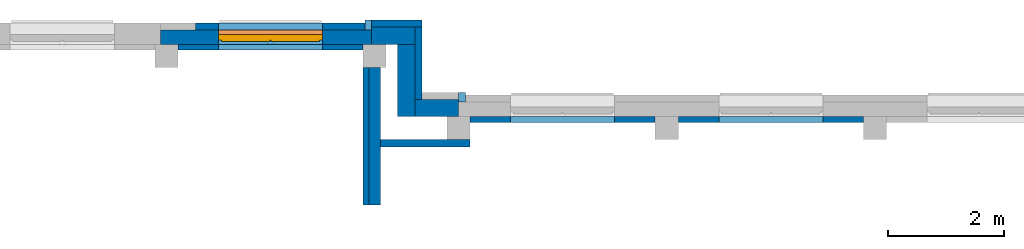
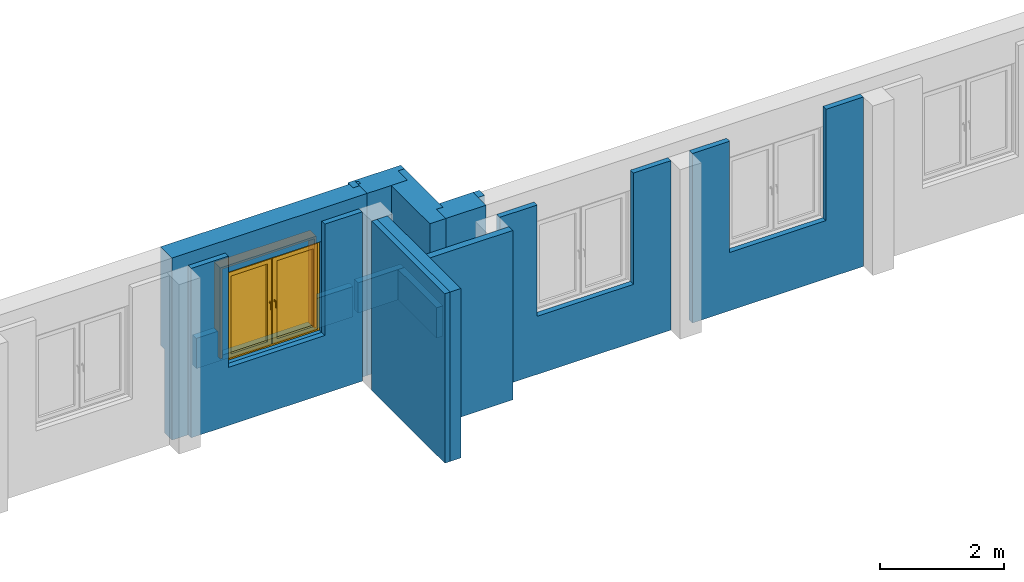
# One storey, part 2 of 7: 15 walls, 1 proxy, 1 window, 5 openings.
"""IFC4 building model written with IfcOpenShell, lengths in metres."""

from ifc_helpers import new_model, entity, si_unit, converted_unit, derived_unit, frame, frame_2d, origin, origin_with_axes, place, context, subcontext, project, spatial, polyline, rectangle, outline, extrude, clip, bounded_halfspace, closed_shell, open_shell, faceted_brep, surface_model, source, transform, mapped, material, layer, layer_set, layer_usage, element, fill, save


model = new_model("IFC4")

# Units and contexts
model_context = context("Model", 3, precision=1e-05, world=origin())
body_context = subcontext(model_context, "Body", "Model", "MODEL_VIEW")
ifc_project = project(units=[si_unit("LENGTHUNIT", "METRE"), si_unit("AREAUNIT", "SQUARE_METRE"), si_unit("VOLUMEUNIT", "CUBIC_METRE"), si_unit("MASSUNIT", "GRAM", prefix="KILO"), converted_unit("PLANEANGLEUNIT", "DEGREE", entity("IfcPlaneAngleMeasure", 0.0174532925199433), si_unit("PLANEANGLEUNIT", "RADIAN"), dimensions=[0, 0, 0, 0, 0, 0, 0]), derived_unit("THERMALTRANSMITTANCEUNIT", [(si_unit("POWERUNIT", "WATT"), 1), (si_unit("THERMODYNAMICTEMPERATUREUNIT", "KELVIN"), -1), (si_unit("LENGTHUNIT", "METRE"), -2)]), derived_unit("VOLUMETRICFLOWRATEUNIT", [(si_unit("LENGTHUNIT", "METRE"), 3), (converted_unit("TIMEUNIT", "hour", entity("IfcTimeMeasure", 3600.0), si_unit("TIMEUNIT", "SECOND"), dimensions=[0, 0, 1, 0, 0, 0, 0]), -1), (si_unit("LENGTHUNIT", "METRE"), -1)])], contexts=[model_context])

# Site, building, storey
site_placement = place(None, origin())
site = spatial("IfcSite", under=ifc_project, at=site_placement, Name="3. ASŘ", CompositionType="ELEMENT")
building_placement = place(site_placement, origin())
building = spatial("IfcBuilding", under=site, at=building_placement, Name="Pavilon B", CompositionType="ELEMENT")
storey_placement = place(building_placement, frame((0.0, 0.0, 3.6)))
storey = spatial("IfcBuildingStorey", under=building, at=storey_placement, Name="Půdorys 2.NP", CompositionType="ELEMENT", Elevation=3.6)

# Walls
ifc_material_1 = material(Name="ZELEZOBETONOVÁ KCE")
ifc_layer_1 = layer(ifc_material_1, 0.2)
ifc_layer_set_1 = layer_set([ifc_layer_1])
ifc_layer_usage_1 = layer_usage(ifc_layer_set_1, "AXIS2", "POSITIVE", -0.1)
wall_1_placement = place(storey_placement, frame((31.9, -18.375, -0.1), z_axis=(0.0, 0.0, 1.0), x_axis=(0.0, 1.0, 0.0)))
element("IfcWall", 1, at=wall_1_placement, inside=storey, material=ifc_layer_usage_1, Name="ZELEZOBETONOVÁ KCE", context=body_context, shape_type="SweptSolid", body=[
    extrude(rectangle(XDim=2.375, YDim=0.2, at=frame_2d((1.1875, 0.1), x_axis=(1.0, 0.0))), origin_with_axes(), (0.0, 0.0, 1.0), 3.35),
])
ifc_material_2 = material(Name="PÓROBETONOVÉ ZDIVO")
ifc_layer_2 = layer(ifc_material_2, 0.1)
ifc_layer_set_2 = layer_set([ifc_layer_2])
ifc_layer_usage_2 = layer_usage(ifc_layer_set_2, "AXIS2", "POSITIVE", 0.0)
wall_2_placement = place(storey_placement, frame((31.6, -16.0, -0.1), z_axis=(0.0, 0.0, 1.0), x_axis=(0.0, -1.0, 0.0)))
element("IfcWall", 2, at=wall_2_placement, inside=storey, material=ifc_layer_usage_2, Name="PÓROBETONOVÉ ZDIVO", context=body_context, shape_type="SweptSolid", body=[
    extrude(rectangle(XDim=2.375, YDim=0.1, at=frame_2d((1.1875, 0.05), x_axis=(1.0, 0.0))), origin_with_axes(), (0.0, 0.0, 1.0), 3.35),
])
ifc_material_3 = material(Name="ZDIVO Z CDm")
ifc_layer_3 = layer(ifc_material_3, 0.125)
ifc_layer_set_3 = layer_set([ifc_layer_3])
ifc_layer_usage_3 = layer_usage(ifc_layer_set_3, "AXIS2", "POSITIVE", 0.0)
wall_3_placement = place(storey_placement, frame((33.45, -17.25, -0.1), z_axis=(0.0, 0.0, 1.0), x_axis=(-1.0, 0.0, 0.0)))
element("IfcWall", 3, at=wall_3_placement, inside=storey, material=ifc_layer_usage_3, Name="ZDIVO Z CDm", context=body_context, shape_type="SweptSolid", body=[
    extrude(rectangle(XDim=1.55, YDim=0.125, at=frame_2d((0.775, 0.0625), x_axis=(1.0, 0.0))), origin_with_axes(), (0.0, 0.0, 1.0), 3.35),
])

# Wall, opening
ifc_material_4 = material(Name="PÓROBETONOVÉ ZDIVO")
ifc_layer_4 = layer(ifc_material_4, 0.1)
ifc_layer_set_4 = layer_set([ifc_layer_4])
ifc_layer_usage_4 = layer_usage(ifc_layer_set_4, "AXIS2", "POSITIVE", 0.0)
wall_4_placement = place(storey_placement, frame((31.6, -15.6, -0.1), z_axis=(0.0, 0.0, 1.0), x_axis=(-1.0, 0.0, 0.0)))
wall_4 = element("IfcWall", 4, at=wall_4_placement, inside=storey, material=ifc_layer_usage_4, Name="PÓROBETONOVÉ ZDIVO", context=body_context, shape_type="SweptSolid", body=[
    extrude(rectangle(XDim=3.2, YDim=0.1, at=frame_2d((1.6, 0.05), x_axis=(1.0, 0.0))), origin_with_axes(), (0.0, 0.0, 1.0), 3.35),
])
opening_1_placement = place(wall_4_placement, frame((2.5, 0.1, 1.15), z_axis=(0.0, -1.0, 0.0), x_axis=(0.0, 0.0, 1.0)))
element("IfcOpeningElement", 5, at=opening_1_placement, cuts=wall_4, Name="Okenní otvor", ObjectType="Opening", context=body_context, shape_type="SweptSolid", body=[
    extrude(outline(polyline([(0.0, 1.8), (2.2, 1.8), (2.2, 0.0), (0.0, 0.0), (0.0, 1.8)])), origin_with_axes(), (0.0, 0.0, 1.0), 0.1),
])

ifc_material_5 = material(Name="PÓROBETONOVÉ ZDIVO")
ifc_layer_5 = layer(ifc_material_5, 0.1)
ifc_layer_set_5 = layer_set([ifc_layer_5])
ifc_layer_usage_5 = layer_usage(ifc_layer_set_5, "AXIS2", "POSITIVE", 0.0)
wall_5_placement = place(storey_placement, frame((40.25, -16.85, -0.1), z_axis=(0.0, 0.0, 1.0), x_axis=(-1.0, 0.0, 0.0)))
wall_5 = element("IfcWall", 6, at=wall_5_placement, inside=storey, material=ifc_layer_usage_5, Name="PÓROBETONOVÉ ZDIVO", context=body_context, shape_type="SweptSolid", body=[
    extrude(rectangle(XDim=3.2, YDim=0.1, at=frame_2d((1.6, 0.05), x_axis=(1.0, 0.0))), origin_with_axes(), (0.0, 0.0, 1.0), 3.35),
])
opening_2_placement = place(wall_5_placement, frame((2.5, 0.1, 1.15), z_axis=(0.0, -1.0, 0.0), x_axis=(0.0, 0.0, 1.0)))
element("IfcOpeningElement", 7, at=opening_2_placement, cuts=wall_5, Name="Okenní otvor", ObjectType="Opening", context=body_context, shape_type="SweptSolid", body=[
    extrude(outline(polyline([(0.0, 1.8), (2.2, 1.8), (2.2, 0.0), (0.0, 0.0), (0.0, 1.8)])), origin_with_axes(), (0.0, 0.0, 1.0), 0.1),
])

ifc_material_6 = material(Name="PÓROBETONOVÉ ZDIVO")
ifc_layer_6 = layer(ifc_material_6, 0.1)
ifc_layer_set_6 = layer_set([ifc_layer_6])
ifc_layer_usage_6 = layer_usage(ifc_layer_set_6, "AXIS2", "POSITIVE", 0.0)
wall_6_placement = place(storey_placement, frame((36.65, -16.85, -0.1), z_axis=(0.0, 0.0, 1.0), x_axis=(-1.0, 0.0, 0.0)))
wall_6 = element("IfcWall", 8, at=wall_6_placement, inside=storey, material=ifc_layer_usage_6, Name="PÓROBETONOVÉ ZDIVO", context=body_context, shape_type="SweptSolid", body=[
    extrude(rectangle(XDim=3.2, YDim=0.1, at=frame_2d((1.6, 0.05), x_axis=(1.0, 0.0))), origin_with_axes(), (0.0, 0.0, 1.0), 3.35),
])
opening_3_placement = place(wall_6_placement, frame((2.5, 0.1, 1.15), z_axis=(0.0, -1.0, 0.0), x_axis=(0.0, 0.0, 1.0)))
element("IfcOpeningElement", 9, at=opening_3_placement, cuts=wall_6, Name="Okenní otvor", ObjectType="Opening", context=body_context, shape_type="SweptSolid", body=[
    extrude(outline(polyline([(0.0, 1.8), (2.2, 1.8), (2.2, 0.0), (0.0, 0.0), (0.0, 1.8)])), origin_with_axes(), (0.0, 0.0, 1.0), 0.1),
])

# Walls
ifc_material_7 = material(Name="ZELEZOBETONOVÁ KCE")
ifc_layer_7 = layer(ifc_material_7, 0.3)
ifc_material_8 = material(Name="MINERÁLNÍ VATA")
ifc_layer_8 = layer(ifc_material_8, 0.119999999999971)
ifc_layer_set_7 = layer_set([ifc_layer_7, ifc_layer_8])
ifc_layer_usage_7 = layer_usage(ifc_layer_set_7, "AXIS2", "POSITIVE", 0.0)
wall_7_placement = place(storey_placement, frame((32.5, -16.85, -0.1)))
element("IfcWall", 10, at=wall_7_placement, inside=storey, material=ifc_layer_usage_7, Name="ZELEZOBETONOVÁ KCE", context=body_context, shape_type="Clipping", body=[
    clip(extrude(outline(polyline([(0.12, 0.419999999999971), (0.12, 0.3), (0.0, 0.3), (0.0, 0.0), (0.75, 0.0), (0.75, 0.419999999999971), (0.12, 0.419999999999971)])), origin_with_axes(), (0.0, 0.0, 1.0), 3.6), bounded_halfspace(frame((0.435000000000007, 0.359999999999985, 1.65), z_axis=(0.0, 0.0, 1.0), x_axis=(0.0, -1.0, 0.0)), True, origin_with_axes(), polyline([(0.120000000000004, 0.419999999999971), (0.120000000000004, 0.3), (0.75, 0.3), (0.750000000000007, 0.419999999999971), (0.120000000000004, 0.419999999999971)]))),
])
ifc_material_9 = material(Name="MINERÁLNÍ VATA")
ifc_layer_9 = layer(ifc_material_9, 0.12)
ifc_layer_set_8 = layer_set([ifc_layer_9])
ifc_layer_usage_8 = layer_usage(ifc_layer_set_8, "AXIS2", "POSITIVE", 0.0)
wall_8_placement = place(storey_placement, frame((33.25, -16.43, 1.55), z_axis=(0.0, 0.0, 1.0), x_axis=(0.0, -1.0, 0.0)))
element("IfcWall", 11, at=wall_8_placement, inside=storey, material=ifc_layer_usage_8, Name="ZELEZOBETONOVÁ KCE", context=body_context, shape_type="SweptSolid", body=[
    extrude(rectangle(XDim=0.17, YDim=0.12, at=frame_2d((0.085, 0.06), x_axis=(1.0, 0.0))), origin_with_axes(), (0.0, 0.0, 1.0), 1.95),
])
ifc_material_10 = material(Name="ZELEZOBETONOVÁ KCE")
ifc_layer_10 = layer(ifc_material_10, 0.3)
ifc_material_11 = material(Name="MINERÁLNÍ VATA")
ifc_layer_11 = layer(ifc_material_11, 0.12)
ifc_layer_set_9 = layer_set([ifc_layer_10, ifc_layer_11])
ifc_layer_usage_9 = layer_usage(ifc_layer_set_9, "AXIS2", "POSITIVE", 0.0)
wall_9_placement = place(storey_placement, frame((32.2, -15.6, -0.1), z_axis=(0.0, 0.0, 1.0), x_axis=(0.0, -1.0, 0.0)))
element("IfcWall", 12, at=wall_9_placement, inside=storey, material=ifc_layer_usage_9, Name="ZELEZOBETONOVÁ KCE", context=body_context, shape_type="Clipping", body=[
    clip(extrude(outline(polyline([(-1.25, 0.0), (0.0, 0.0), (0.0, 0.3), (-0.3, 0.3), (-0.3, 0.42), (-1.55, 0.42), (-1.55, 0.3), (-1.25, 0.3), (-1.25, 0.0)])), frame((1.25, 0.0, 0.0), z_axis=(0.0, 0.0, 1.0), x_axis=(1.0, 0.0, 0.0)), (0.0, 0.0, 1.0), 3.6), bounded_halfspace(frame((0.26, 0.348, 1.65), z_axis=(0.0, 0.0, 1.0), x_axis=(0.0, -1.0, 0.0)), True, origin_with_axes(), polyline([(-0.3, 0.42), (-0.3, 0.3), (0.0, 0.3), (0.949999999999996, 0.3), (0.949999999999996, 0.42), (-0.3, 0.42)]))),
])
ifc_material_12 = material(Name="ZELEZOBETONOVÁ KCE")
ifc_layer_12 = layer(ifc_material_12, 0.3)
ifc_material_13 = material(Name="MINERÁLNÍ VATA")
ifc_layer_13 = layer(ifc_material_13, 0.12)
ifc_layer_set_10 = layer_set([ifc_layer_12, ifc_layer_13])
ifc_layer_usage_10 = layer_usage(ifc_layer_set_10, "AXIS2", "POSITIVE", 0.0)
wall_10_placement = place(storey_placement, frame((31.75, -15.6, -0.1)))
element("IfcWall", 13, at=wall_10_placement, inside=storey, material=ifc_layer_usage_10, Name="ZELEZOBETONOVÁ KCE", context=body_context, shape_type="Clipping", body=[
    clip(extrude(outline(polyline([(0.0, 0.0), (0.75, 0.0), (0.75, 0.3), (0.87, 0.3), (0.87, 0.42), (0.0, 0.42), (0.0, 0.37), (0.05, 0.37), (0.05, 0.3), (0.0, 0.3), (0.0, 0.0)])), origin_with_axes(), (0.0, 0.0, 1.0), 3.6), bounded_halfspace(frame((0.369999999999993, 0.354285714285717, 1.65), z_axis=(0.0, 0.0, 1.0), x_axis=(0.0, -1.0, 0.0)), True, origin_with_axes(), polyline([(0.05, 0.37), (0.05, 0.3), (0.749999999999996, 0.300000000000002), (0.87, 0.3), (0.87, 0.42), (0.0, 0.42), (0.0, 0.37), (0.05, 0.37)]))),
])
ifc_material_14 = material(Name="MINERÁLNÍ VATA")
ifc_layer_14 = layer(ifc_material_14, 0.12)
ifc_layer_set_11 = layer_set([ifc_layer_14])
ifc_layer_usage_11 = layer_usage(ifc_layer_set_11, "AXIS2", "POSITIVE", 0.0)
wall_11_placement = place(storey_placement, frame((31.75, -15.35, 1.55), z_axis=(0.0, 0.0, 1.0), x_axis=(0.0, 1.0, 0.0)))
element("IfcWall", 14, at=wall_11_placement, inside=storey, material=ifc_layer_usage_11, Name="ZELEZOBETONOVÁ KCE", context=body_context, shape_type="SweptSolid", body=[
    extrude(rectangle(XDim=0.17, YDim=0.12, at=frame_2d((0.085, 0.06), x_axis=(1.0, 0.0))), origin_with_axes(), (0.0, 0.0, 1.0), 1.95),
])

# Wall, opening, window, proxy
ifc_material_15 = material(Name="ZELEZOBETONOVÁ KCE")
wall_12_placement = place(storey_placement, frame((28.1, -15.6, -0.1)))
wall_12 = element("IfcWall", 15, at=wall_12_placement, inside=storey, material=ifc_material_15, Name="ZELEZOBETONOVÁ KCE", context=body_context, shape_type="Clipping", body=[
    clip(clip(extrude(outline(polyline([(3.53, 0.25), (3.53, 0.37), (0.0, 0.37), (0.0, 0.0), (3.65, 0.0), (3.65, 0.25), (3.53, 0.25)])), origin_with_axes(), (0.0, 0.0, 1.0), 3.6), bounded_halfspace(frame((3.675, 0.335, 1.65), z_axis=(0.0, 0.0, 1.0), x_axis=(0.0, 1.0, 0.0)), True, origin_with_axes(), polyline([(3.7, 0.300000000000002), (3.7, 0.37), (3.65, 0.37), (3.65, 0.300000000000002), (3.7, 0.300000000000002)]))), bounded_halfspace(frame((1.765, 0.31, 1.65), z_axis=(0.0, 0.0, 1.0), x_axis=(1.0, -5.1529444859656e-16, 0.0)), True, origin_with_axes(), polyline([(3.63797880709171e-15, 0.250000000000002), (3.53, 0.25), (3.53, 0.37), (0.0, 0.37), (3.63797880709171e-15, 0.250000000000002)]))),
    clip(clip(extrude(rectangle(XDim=0.12, YDim=0.05, at=frame_2d((-0.025, 0.06), x_axis=(0.0, 1.0))), frame((3.7, 0.25, 0.0), z_axis=(0.0, 0.0, 1.0), x_axis=(1.0, 0.0, 0.0)), (0.0, 0.0, 1.0), 3.6), bounded_halfspace(frame((3.675, 0.335, 1.65), z_axis=(0.0, 0.0, 1.0), x_axis=(0.0, 1.0, 0.0)), True, origin_with_axes(), polyline([(3.7, 0.300000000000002), (3.7, 0.37), (3.65, 0.37), (3.65, 0.300000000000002), (3.7, 0.300000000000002)]))), bounded_halfspace(frame((1.765, 0.31, 1.65), z_axis=(0.0, 0.0, 1.0), x_axis=(1.0, -5.1529444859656e-16, 0.0)), True, origin_with_axes(), polyline([(3.63797880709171e-15, 0.250000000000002), (3.53, 0.25), (3.53, 0.37), (0.0, 0.37), (3.63797880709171e-15, 0.250000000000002)]))),
])
opening_4_placement = place(wall_12_placement, frame((2.8, 0.37, 1.15), z_axis=(0.0, -1.0, 0.0), x_axis=(0.0, 0.0, 1.0)))
opening_4 = element("IfcOpeningElement", 16, at=opening_4_placement, cuts=wall_12, Name="Okenní otvor", ObjectType="Opening", context=body_context, shape_type="SweptSolid", body=[
    extrude(outline(polyline([(0.0, 1.8), (1.8, 1.8), (1.8, 0.0), (0.0, 0.0), (0.0, 1.8)])), origin_with_axes(), (0.0, 0.0, 1.0), 0.12),
    extrude(outline(polyline([(0.0, 1.8), (1.8, 1.8), (1.8, 0.0), (0.0, 0.0), (0.0, 1.8)])), frame((0.0, 0.0, 0.12), z_axis=(0.0, 0.0, 1.0), x_axis=(1.0, 0.0, 0.0)), (0.0, 0.0, 1.0), 0.25),
])
shared_shape = source(origin_with_axes(), body_context, "Body", "SurfaceModel", [
    surface_model("IfcShellBasedSurfaceModel", [(0.0, 0.182, 1.8), (0.0, 0.182, -5.63337527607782e-18), (0.08, 0.182, -5.63337527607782e-18), (0.08, 0.182, 1.8), (0.0, 0.0899999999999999, 5.63337527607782e-18), (0.0, 0.0900000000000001, 1.8), (0.08, 0.0900000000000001, 1.8), (0.08, 0.0899999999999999, 5.63337527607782e-18)], [closed_shell([[[0, 1, 2, 3]], [[4, 5, 6, 7]], [[1, 0, 5, 4]], [[2, 1, 4, 7]], [[3, 2, 7, 6]], [[0, 3, 6, 5]]], orient=[[False], [False], [False], [False], [False], [False]])]),
    surface_model("IfcShellBasedSurfaceModel", [(1.72, 0.182, 1.8), (1.72, 0.182, -5.63337527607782e-18), (1.8, 0.182, -5.63337527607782e-18), (1.8, 0.182, 1.8), (1.72, 0.0899999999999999, 5.63337527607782e-18), (1.72, 0.0900000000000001, 1.8), (1.8, 0.0900000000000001, 1.8), (1.8, 0.0899999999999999, 5.63337527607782e-18)], [closed_shell([[[0, 1, 2, 3]], [[4, 5, 6, 7]], [[1, 0, 5, 4]], [[2, 1, 4, 7]], [[3, 2, 7, 6]], [[0, 3, 6, 5]]], orient=[[False], [False], [False], [False], [False], [False]])]),
    surface_model("IfcShellBasedSurfaceModel", [(0.08, 0.182, 0.08), (0.08, 0.182, -5.63337527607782e-18), (1.72, 0.182, -5.63337527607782e-18), (1.72, 0.182, 0.08), (0.08, 0.0899999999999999, 5.63337527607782e-18), (0.08, 0.0899999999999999, 0.08), (1.72, 0.0899999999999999, 0.08), (1.72, 0.0899999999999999, 5.63337527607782e-18)], [closed_shell([[[0, 1, 2, 3]], [[4, 5, 6, 7]], [[1, 0, 5, 4]], [[2, 1, 4, 7]], [[3, 2, 7, 6]], [[0, 3, 6, 5]]], orient=[[False], [False], [False], [False], [False], [False]])]),
    surface_model("IfcShellBasedSurfaceModel", [(0.08, 0.182, 1.8), (0.08, 0.182, 1.72), (1.72, 0.182, 1.72), (1.72, 0.182, 1.8), (0.08, 0.0900000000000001, 1.72), (0.08, 0.0900000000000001, 1.8), (1.72, 0.0900000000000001, 1.8), (1.72, 0.0900000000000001, 1.72)], [closed_shell([[[0, 1, 2, 3]], [[4, 5, 6, 7]], [[1, 0, 5, 4]], [[2, 1, 4, 7]], [[3, 2, 7, 6]], [[0, 3, 6, 5]]], orient=[[False], [False], [False], [False], [False], [False]])]),
    surface_model("IfcShellBasedSurfaceModel", [(0.86, 0.182, 1.72), (0.86, 0.182, 0.08), (0.94, 0.182, 0.08), (0.94, 0.182, 1.72), (0.86, 0.0899999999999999, 0.08), (0.86, 0.0900000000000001, 1.72), (0.94, 0.0900000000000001, 1.72), (0.94, 0.0899999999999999, 0.08)], [closed_shell([[[0, 1, 2, 3]], [[4, 5, 6, 7]], [[1, 0, 5, 4]], [[2, 1, 4, 7]], [[3, 2, 7, 6]], [[0, 3, 6, 5]]], orient=[[False], [False], [False], [False], [False], [False]])]),
    surface_model("IfcShellBasedSurfaceModel", [(0.05, 0.145, 1.75), (0.05, 0.145, 0.05), (0.13, 0.145, 0.05), (0.13, 0.145, 1.75), (0.05, 0.0599999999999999, 0.05), (0.05, 0.0600000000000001, 1.75), (0.13, 0.0600000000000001, 1.75), (0.13, 0.0599999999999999, 0.05)], [closed_shell([[[0, 1, 2, 3]], [[4, 5, 6, 7]], [[1, 0, 5, 4]], [[2, 1, 4, 7]], [[3, 2, 7, 6]], [[0, 3, 6, 5]]], orient=[[False], [False], [False], [False], [False], [False]])]),
    surface_model("IfcShellBasedSurfaceModel", [(0.81, 0.145, 1.75), (0.81, 0.145, 0.05), (0.89, 0.145, 0.05), (0.89, 0.145, 1.75), (0.81, 0.0599999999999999, 0.05), (0.81, 0.0600000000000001, 1.75), (0.89, 0.0600000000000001, 1.75), (0.89, 0.0599999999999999, 0.05)], [closed_shell([[[0, 1, 2, 3]], [[4, 5, 6, 7]], [[1, 0, 5, 4]], [[2, 1, 4, 7]], [[3, 2, 7, 6]], [[0, 3, 6, 5]]], orient=[[False], [False], [False], [False], [False], [False]])]),
    surface_model("IfcShellBasedSurfaceModel", [(0.13, 0.145, 0.13), (0.13, 0.145, 0.05), (0.81, 0.145, 0.05), (0.81, 0.145, 0.13), (0.13, 0.0599999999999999, 0.05), (0.13, 0.0599999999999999, 0.13), (0.81, 0.0599999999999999, 0.13), (0.81, 0.0599999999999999, 0.05)], [closed_shell([[[0, 1, 2, 3]], [[4, 5, 6, 7]], [[1, 0, 5, 4]], [[2, 1, 4, 7]], [[3, 2, 7, 6]], [[0, 3, 6, 5]]], orient=[[False], [False], [False], [False], [False], [False]])]),
    surface_model("IfcShellBasedSurfaceModel", [(0.13, 0.145, 1.75), (0.13, 0.145, 1.67), (0.81, 0.145, 1.67), (0.81, 0.145, 1.75), (0.13, 0.0600000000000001, 1.67), (0.13, 0.0600000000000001, 1.75), (0.81, 0.0600000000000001, 1.75), (0.81, 0.0600000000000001, 1.67)], [closed_shell([[[0, 1, 2, 3]], [[4, 5, 6, 7]], [[1, 0, 5, 4]], [[2, 1, 4, 7]], [[3, 2, 7, 6]], [[0, 3, 6, 5]]], orient=[[False], [False], [False], [False], [False], [False]])]),
    surface_model("IfcShellBasedSurfaceModel", [(0.8375, 0.06, 0.92), (0.8375, 0.06, 0.88), (0.8625, 0.06, 0.88), (0.8625, 0.06, 0.92), (0.8375, 0.05, 0.88), (0.8375, 0.05, 0.92), (0.8625, 0.05, 0.92), (0.8625, 0.05, 0.88)], [closed_shell([[[0, 1, 2, 3]], [[4, 5, 6, 7]], [[1, 0, 5, 4]], [[2, 1, 4, 7]], [[3, 2, 7, 6]], [[0, 3, 6, 5]]], orient=[[False], [False], [False], [False], [False], [False]])]),
    surface_model("IfcShellBasedSurfaceModel", [(0.86, 0.05, 0.9), (0.858660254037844, 0.05, 0.905), (0.855, 0.05, 0.908660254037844), (0.85, 0.05, 0.91), (0.845, 0.05, 0.908660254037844), (0.841339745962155, 0.05, 0.905), (0.84, 0.05, 0.9), (0.841339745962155, 0.05, 0.895), (0.845, 0.05, 0.891339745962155), (0.85, 0.05, 0.89), (0.855, 0.05, 0.891339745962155), (0.858660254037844, 0.05, 0.895), (0.86, 0.01, 0.9), (0.858660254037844, 0.00500000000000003, 0.905), (0.855, 0.00133974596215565, 0.908660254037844), (0.85, 2.8421709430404e-17, 0.91), (0.845, 0.00133974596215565, 0.908660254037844), (0.841339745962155, 0.00500000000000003, 0.905), (0.84, 0.01, 0.9), (0.841339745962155, 0.015, 0.895), (0.845, 0.0186602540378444, 0.891339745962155), (0.85, 0.02, 0.89), (0.855, 0.0186602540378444, 0.891339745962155), (0.858660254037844, 0.015, 0.895), (0.86, 0.01, 0.785), (0.858660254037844, 0.005, 0.785), (0.855, 0.00133974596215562, 0.785), (0.85, 0.0, 0.785), (0.845, 0.00133974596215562, 0.785), (0.841339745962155, 0.005, 0.785), (0.84, 0.01, 0.785), (0.841339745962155, 0.015, 0.785), (0.845, 0.0186602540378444, 0.785), (0.85, 0.02, 0.785), (0.855, 0.0186602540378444, 0.785), (0.858660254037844, 0.015, 0.785)], [open_shell([[[0, 1, 2, 3, 4, 5, 6, 7, 8, 9, 10, 11]], [[0, 12, 13, 1]], [[1, 13, 14, 2]], [[2, 14, 15, 3]], [[3, 15, 16, 4]], [[4, 16, 17, 5]], [[5, 17, 18, 6]], [[6, 18, 19, 7]], [[7, 19, 20, 8]], [[8, 20, 21, 9]], [[9, 21, 22, 10]], [[10, 22, 23, 11]], [[11, 23, 12, 0]], [[12, 24, 25, 13]], [[13, 25, 26, 14]], [[14, 26, 27, 15]], [[15, 27, 28, 16]], [[16, 28, 29, 17]], [[17, 29, 30, 18]], [[18, 30, 31, 19]], [[19, 31, 32, 20]], [[20, 32, 33, 21]], [[21, 33, 34, 22]], [[22, 34, 35, 23]], [[23, 35, 24, 12]]], orient=[[False], [False], [False], [False], [False], [False], [False], [False], [False], [False], [False], [False], [False], [False], [False], [False], [False], [False], [False], [False], [False], [False], [False], [False], [False]])]),
    surface_model("IfcShellBasedSurfaceModel", [(0.91, 0.145, 1.75), (0.91, 0.145, 0.05), (0.99, 0.145, 0.05), (0.99, 0.145, 1.75), (0.91, 0.0599999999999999, 0.05), (0.91, 0.0600000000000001, 1.75), (0.99, 0.0600000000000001, 1.75), (0.99, 0.0599999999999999, 0.05)], [closed_shell([[[0, 1, 2, 3]], [[4, 5, 6, 7]], [[1, 0, 5, 4]], [[2, 1, 4, 7]], [[3, 2, 7, 6]], [[0, 3, 6, 5]]], orient=[[False], [False], [False], [False], [False], [False]])]),
    surface_model("IfcShellBasedSurfaceModel", [(1.67, 0.145, 1.75), (1.67, 0.145, 0.05), (1.75, 0.145, 0.05), (1.75, 0.145, 1.75), (1.67, 0.0599999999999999, 0.05), (1.67, 0.0600000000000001, 1.75), (1.75, 0.0600000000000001, 1.75), (1.75, 0.0599999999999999, 0.05)], [closed_shell([[[0, 1, 2, 3]], [[4, 5, 6, 7]], [[1, 0, 5, 4]], [[2, 1, 4, 7]], [[3, 2, 7, 6]], [[0, 3, 6, 5]]], orient=[[False], [False], [False], [False], [False], [False]])]),
    surface_model("IfcShellBasedSurfaceModel", [(0.99, 0.145, 0.13), (0.99, 0.145, 0.05), (1.67, 0.145, 0.05), (1.67, 0.145, 0.13), (0.99, 0.0599999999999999, 0.05), (0.99, 0.0599999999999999, 0.13), (1.67, 0.0599999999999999, 0.13), (1.67, 0.0599999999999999, 0.05)], [closed_shell([[[0, 1, 2, 3]], [[4, 5, 6, 7]], [[1, 0, 5, 4]], [[2, 1, 4, 7]], [[3, 2, 7, 6]], [[0, 3, 6, 5]]], orient=[[False], [False], [False], [False], [False], [False]])]),
    surface_model("IfcShellBasedSurfaceModel", [(0.99, 0.145, 1.75), (0.99, 0.145, 1.67), (1.67, 0.145, 1.67), (1.67, 0.145, 1.75), (0.99, 0.0600000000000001, 1.67), (0.99, 0.0600000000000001, 1.75), (1.67, 0.0600000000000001, 1.75), (1.67, 0.0600000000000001, 1.67)], [closed_shell([[[0, 1, 2, 3]], [[4, 5, 6, 7]], [[1, 0, 5, 4]], [[2, 1, 4, 7]], [[3, 2, 7, 6]], [[0, 3, 6, 5]]], orient=[[False], [False], [False], [False], [False], [False]])]),
    surface_model("IfcShellBasedSurfaceModel", [(0.9375, 0.06, 0.92), (0.9375, 0.06, 0.88), (0.9625, 0.06, 0.88), (0.9625, 0.06, 0.92), (0.9375, 0.05, 0.88), (0.9375, 0.05, 0.92), (0.9625, 0.05, 0.92), (0.9625, 0.05, 0.88)], [closed_shell([[[0, 1, 2, 3]], [[4, 5, 6, 7]], [[1, 0, 5, 4]], [[2, 1, 4, 7]], [[3, 2, 7, 6]], [[0, 3, 6, 5]]], orient=[[False], [False], [False], [False], [False], [False]])]),
    surface_model("IfcShellBasedSurfaceModel", [(0.96, 0.05, 0.9), (0.958660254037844, 0.05, 0.905), (0.955, 0.05, 0.908660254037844), (0.95, 0.05, 0.91), (0.945, 0.05, 0.908660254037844), (0.941339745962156, 0.05, 0.905), (0.94, 0.05, 0.9), (0.941339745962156, 0.05, 0.895), (0.945, 0.05, 0.891339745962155), (0.95, 0.05, 0.89), (0.955, 0.05, 0.891339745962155), (0.958660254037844, 0.05, 0.895), (0.96, 0.01, 0.9), (0.958660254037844, 0.00500000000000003, 0.905), (0.955, 0.00133974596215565, 0.908660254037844), (0.95, 2.8421709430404e-17, 0.91), (0.945, 0.00133974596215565, 0.908660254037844), (0.941339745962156, 0.00500000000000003, 0.905), (0.94, 0.01, 0.9), (0.941339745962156, 0.015, 0.895), (0.945, 0.0186602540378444, 0.891339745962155), (0.95, 0.02, 0.89), (0.955, 0.0186602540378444, 0.891339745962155), (0.958660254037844, 0.015, 0.895), (0.96, 0.01, 0.785), (0.958660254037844, 0.005, 0.785), (0.955, 0.00133974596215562, 0.785), (0.95, 0.0, 0.785), (0.945, 0.00133974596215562, 0.785), (0.941339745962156, 0.005, 0.785), (0.94, 0.01, 0.785), (0.941339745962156, 0.015, 0.785), (0.945, 0.0186602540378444, 0.785), (0.95, 0.02, 0.785), (0.955, 0.0186602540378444, 0.785), (0.958660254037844, 0.015, 0.785)], [open_shell([[[0, 1, 2, 3, 4, 5, 6, 7, 8, 9, 10, 11]], [[0, 12, 13, 1]], [[1, 13, 14, 2]], [[2, 14, 15, 3]], [[3, 15, 16, 4]], [[4, 16, 17, 5]], [[5, 17, 18, 6]], [[6, 18, 19, 7]], [[7, 19, 20, 8]], [[8, 20, 21, 9]], [[9, 21, 22, 10]], [[10, 22, 23, 11]], [[11, 23, 12, 0]], [[12, 24, 25, 13]], [[13, 25, 26, 14]], [[14, 26, 27, 15]], [[15, 27, 28, 16]], [[16, 28, 29, 17]], [[17, 29, 30, 18]], [[18, 30, 31, 19]], [[19, 31, 32, 20]], [[20, 32, 33, 21]], [[21, 33, 34, 22]], [[22, 34, 35, 23]], [[23, 35, 24, 12]]], orient=[[False], [False], [False], [False], [False], [False], [False], [False], [False], [False], [False], [False], [False], [False], [False], [False], [False], [False], [False], [False], [False], [False], [False], [False], [False]])]),
    surface_model("IfcShellBasedSurfaceModel", [(0.13, 0.1025, 0.13), (0.81, 0.1025, 0.13), (0.81, 0.1025, 1.67), (0.13, 0.1025, 1.67)], [open_shell([[[0, 1, 2, 3]]], orient=[[False]])]),
    surface_model("IfcShellBasedSurfaceModel", [(0.99, 0.1025, 0.13), (1.67, 0.1025, 0.13), (1.67, 0.1025, 1.67), (0.99, 0.1025, 1.67)], [open_shell([[[0, 1, 2, 3]]], orient=[[False]])]),
])
window_placement = place(opening_4_placement, frame((0.0, 1.8, 0.382), z_axis=(1.0, 0.0, 0.0), x_axis=(0.0, -1.0, 2.44929359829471e-16)))
window = element("IfcWindow", 17, at=window_placement, inside=storey, Name="O06", OverallHeight=1.8, OverallWidth=1.8, PartitioningType="USERDEFINED", PredefinedType="WINDOW", context=body_context, shape_type="MappedRepresentation", body=[
    mapped(shared_shape, transform((0.0, 0.0, 0.0), x_axis=(1.0, 0.0, 0.0), y_axis=(0.0, 1.0, 0.0), z_axis=(0.0, 0.0, 1.0), scale=1.0)),
])
fill(opening_4, window)
ifc_material_16 = material(Name="MINERÁLNÍ VATA")
proxy_placement = place(opening_4_placement, frame((0.0, 1.8, 0.2)))
proxy = element("IfcBuildingElementProxy", 18, at=proxy_placement, inside=storey, material=ifc_material_16, context=body_context, shape_type="Brep", body=[
    faceted_brep([(0.0, 0.0, 0.0), (0.0, 0.0, -0.2), (1.8, 0.0, -0.2), (1.8, 0.0, 0.0), (1.8, -1.8, -0.2), (1.8, -1.8, 0.0), (0.0, -0.0400000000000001, -0.2), (0.0, -0.0400000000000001, 0.0), (0.0, -1.8, 0.0), (0.0, -1.76, 0.0), (1.76, -1.76, 0.0), (1.76, -0.0400000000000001, 0.0), (1.76, -0.0400000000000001, -0.2), (1.76, -1.76, -0.2), (0.0, -1.76, -0.2), (0.0, -1.8, -0.2)], [[[0, 1, 2, 3]], [[2, 4, 5, 3]], [[6, 1, 0, 7]], [[7, 0, 3, 5, 8, 9, 10, 11]], [[1, 6, 12, 13, 14, 15, 4, 2]], [[6, 7, 11, 12]], [[15, 8, 5, 4]], [[15, 14, 9, 8]], [[9, 14, 13, 10]], [[10, 13, 12, 11]]], orient=[[False], [False], [False], [False], [False], [False], [False], [False], [False], [False]]),
])
fill(opening_4, proxy)

# Wall, opening
ifc_material_17 = material(Name="MINERÁLNÍ VATA")
ifc_layer_15 = layer(ifc_material_17, 0.12)
ifc_layer_set_12 = layer_set([ifc_layer_15])
ifc_layer_usage_12 = layer_usage(ifc_layer_set_12, "AXIS2", "POSITIVE", 0.0)
wall_13_placement = place(storey_placement, frame((31.63, -15.23, 0.95), z_axis=(0.0, 0.0, 1.0), x_axis=(-1.0, 0.0, 0.0)))
wall_13 = element("IfcWall", 19, at=wall_13_placement, inside=storey, material=ifc_layer_usage_12, Name="MINERÁLNÍ VATA", context=body_context, shape_type="SweptSolid", body=[
    extrude(rectangle(XDim=2.93, YDim=0.12, at=frame_2d((1.465, 0.06), x_axis=(1.0, 0.0))), origin_with_axes(), (0.0, 0.0, 1.0), 0.6),
])
opening_5_placement = place(wall_13_placement, frame((0.73, 0.0, 0.1), z_axis=(0.0, 1.0, 0.0), x_axis=(0.0, 0.0, 1.0)))
element("IfcOpeningElement", 20, at=opening_5_placement, cuts=wall_13, Name="Okenní otvor", ObjectType="Opening", context=body_context, shape_type="SweptSolid", body=[
    extrude(outline(polyline([(0.0, 1.8), (2.2, 1.8), (2.2, 0.0), (0.0, 0.0), (0.0, 1.8)])), origin_with_axes(), (0.0, 0.0, 1.0), 0.12),
])

# Walls
ifc_material_18 = material(Name="MINERÁLNÍ VATA")
ifc_layer_16 = layer(ifc_material_18, 0.12)
ifc_layer_set_13 = layer_set([ifc_layer_16])
ifc_layer_usage_13 = layer_usage(ifc_layer_set_13, "AXIS2", "POSITIVE", 0.0)
wall_14_placement = place(storey_placement, frame((32.62, -15.18, 0.95), z_axis=(0.0, 0.0, 1.0), x_axis=(-1.0, 0.0, 0.0)))
element("IfcWall", 21, at=wall_14_placement, inside=storey, material=ifc_layer_usage_13, Name="MINERÁLNÍ VATA", context=body_context, shape_type="SweptSolid", body=[
    extrude(rectangle(XDim=0.87, YDim=0.12, at=frame_2d((0.435, 0.06), x_axis=(1.0, 0.0))), origin_with_axes(), (0.0, 0.0, 1.0), 0.6),
])
ifc_material_19 = material(Name="MINERÁLNÍ VATA")
ifc_layer_17 = layer(ifc_material_19, 0.12)
ifc_layer_set_14 = layer_set([ifc_layer_17])
ifc_layer_usage_14 = layer_usage(ifc_layer_set_14, "AXIS2", "POSITIVE", 0.0)
wall_15_placement = place(storey_placement, frame((32.62, -16.55, 0.95), z_axis=(0.0, 0.0, 1.0), x_axis=(0.0, 1.0, 0.0)))
element("IfcWall", 22, at=wall_15_placement, inside=storey, material=ifc_layer_usage_14, Name="MINERÁLNÍ VATA", context=body_context, shape_type="SweptSolid", body=[
    extrude(rectangle(XDim=1.25000000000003, YDim=0.12, at=frame_2d((0.625000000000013, 0.06), x_axis=(1.0, 0.0))), origin_with_axes(), (0.0, 0.0, 1.0), 0.6),
])

save(model, "model.ifc")
